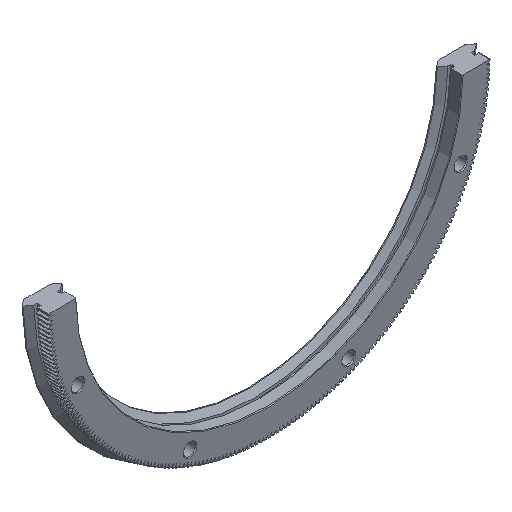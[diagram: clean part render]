
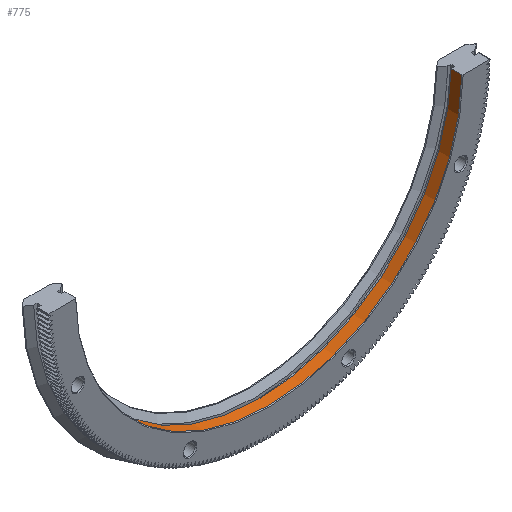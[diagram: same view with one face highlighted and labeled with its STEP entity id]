
A CAD part, isometric view. The second image highlights one B-rep face of the part: STEP entity #775.
In plain terms, the highlighted cylindrical face has radius 59.2 mm (diameter 118.4 mm), a partial arc.
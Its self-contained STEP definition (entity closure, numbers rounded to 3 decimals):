
#775 = ADVANCED_FACE( '', ( #2203 ), #2204, .F. );
#2203 = FACE_OUTER_BOUND( '', #3632, .T. );
#2204 = CYLINDRICAL_SURFACE( '', #3633, 59.2 );
#3632 = EDGE_LOOP( '', ( #9873, #9874, #9875, #9876 ) );
#3633 = AXIS2_PLACEMENT_3D( '', #9877, #9878, #9879 );
#9873 = ORIENTED_EDGE( '', *, *, #11958, .F. );
#9874 = ORIENTED_EDGE( '', *, *, #9899, .T. );
#9875 = ORIENTED_EDGE( '', *, *, #11959, .T. );
#9876 = ORIENTED_EDGE( '', *, *, #11626, .T. );
#9877 = CARTESIAN_POINT( '', ( 0., 0., 0. ) );
#9878 = DIRECTION( '', ( 0., 1., 0. ) );
#9879 = DIRECTION( '', ( 0., 0., -1. ) );
#9899 = EDGE_CURVE( '', #11984, #11982, #11985, .T. );
#11626 = EDGE_CURVE( '', #15004, #15002, #15005, .F. );
#11958 = EDGE_CURVE( '', #11984, #15002, #15418, .T. );
#11959 = EDGE_CURVE( '', #11982, #15004, #15419, .T. );
#11982 = VERTEX_POINT( '', #15459 );
#11984 = VERTEX_POINT( '', #15464 );
#11985 = LINE( '', #15465, #15466 );
#15002 = VERTEX_POINT( '', #20375 );
#15004 = VERTEX_POINT( '', #20378 );
#15005 = LINE( '', #20379, #20380 );
#15418 = CIRCLE( '', #21122, 59.2 );
#15419 = CIRCLE( '', #21123, 59.2 );
#15459 = CARTESIAN_POINT( '', ( -59.192, 0.2, -1. ) );
#15464 = CARTESIAN_POINT( '', ( -59.192, 3.5, -1. ) );
#15465 = CARTESIAN_POINT( '', ( -59.192, 0., -1. ) );
#15466 = VECTOR( '', #21132, 1000. );
#20375 = CARTESIAN_POINT( '', ( 59.192, 3.5, -1. ) );
#20378 = CARTESIAN_POINT( '', ( 59.192, 0.2, -1. ) );
#20379 = CARTESIAN_POINT( '', ( 59.192, 0., -1. ) );
#20380 = VECTOR( '', #23330, 1000. );
#21122 = AXIS2_PLACEMENT_3D( '', #23912, #23913, #23914 );
#21123 = AXIS2_PLACEMENT_3D( '', #23915, #23916, #23917 );
#21132 = DIRECTION( '', ( 0., -1., 0. ) );
#23330 = DIRECTION( '', ( 0., -1., 0. ) );
#23912 = CARTESIAN_POINT( '', ( 0., 3.5, 0. ) );
#23913 = DIRECTION( '', ( 0., -1., 0. ) );
#23914 = DIRECTION( '', ( 0., 0., -1. ) );
#23915 = CARTESIAN_POINT( '', ( 0., 0.2, 0. ) );
#23916 = DIRECTION( '', ( 0., -1., 0. ) );
#23917 = DIRECTION( '', ( 0., 0., -1. ) );
